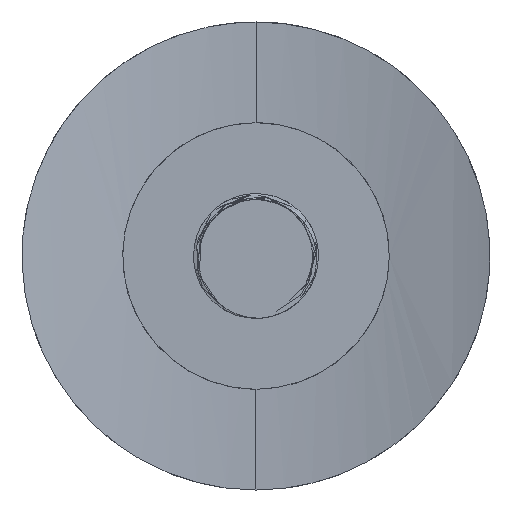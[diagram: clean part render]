
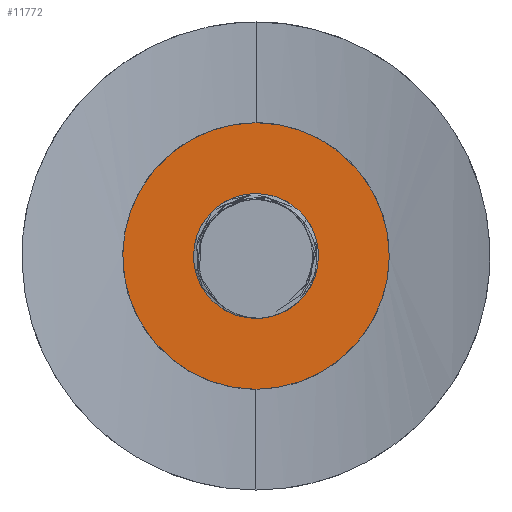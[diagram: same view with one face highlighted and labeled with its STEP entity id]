
A CAD part, left-side view. The second image highlights one B-rep face of the part: STEP entity #11772.
In plain terms, the highlighted planar face has unit normal (-1, 0, 0).
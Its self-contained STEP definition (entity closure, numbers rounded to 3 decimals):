
#145 = DIRECTION ( 'NONE',  ( 0., 0., 1. ) ) ;
#543 = PLANE ( 'NONE',  #8813 ) ;
#610 = CARTESIAN_POINT ( 'NONE',  ( -5.112, 0., 0. ) ) ;
#632 = EDGE_LOOP ( 'NONE', ( #7118, #7405 ) ) ;
#714 = VERTEX_POINT ( 'NONE', #8363 ) ;
#1255 = CARTESIAN_POINT ( 'NONE',  ( -5.112, 0., 0. ) ) ;
#1987 = AXIS2_PLACEMENT_3D ( 'NONE', #1255, #5929, #2329 ) ;
#2329 = DIRECTION ( 'NONE',  ( 0., 0., 1. ) ) ;
#2347 = CIRCLE ( 'NONE', #5713, 8.544 ) ;
#2359 = EDGE_LOOP ( 'NONE', ( #3351, #5665 ) ) ;
#2401 = CIRCLE ( 'NONE', #1987, 4. ) ;
#2527 = CARTESIAN_POINT ( 'NONE',  ( -5.112, 0., -8.544 ) ) ;
#3155 = CARTESIAN_POINT ( 'NONE',  ( -5.112, 8.544, 0. ) ) ;
#3351 = ORIENTED_EDGE ( 'NONE', *, *, #11755, .F. ) ;
#3826 = DIRECTION ( 'NONE',  ( -1., 0., 0. ) ) ;
#5439 = CIRCLE ( 'NONE', #9008, 8.544 ) ;
#5665 = ORIENTED_EDGE ( 'NONE', *, *, #7754, .F. ) ;
#5713 = AXIS2_PLACEMENT_3D ( 'NONE', #11571, #3826, #145 ) ;
#5929 = DIRECTION ( 'NONE',  ( -1., 0., 0. ) ) ;
#6036 = DIRECTION ( 'NONE',  ( -1., 0., 0. ) ) ;
#6633 = EDGE_CURVE ( 'NONE', #12084, #9933, #5439, .T. ) ;
#6713 = VERTEX_POINT ( 'NONE', #9845 ) ;
#7118 = ORIENTED_EDGE ( 'NONE', *, *, #6633, .T. ) ;
#7168 = DIRECTION ( 'NONE',  ( 0., 0., 1. ) ) ;
#7285 = DIRECTION ( 'NONE',  ( 0., 0., 1. ) ) ;
#7405 = ORIENTED_EDGE ( 'NONE', *, *, #8841, .T. ) ;
#7754 = EDGE_CURVE ( 'NONE', #6713, #714, #2401, .T. ) ;
#7921 = DIRECTION ( 'NONE',  ( 0., 0., -1. ) ) ;
#8363 = CARTESIAN_POINT ( 'NONE',  ( -5.112, 0., 4. ) ) ;
#8813 = AXIS2_PLACEMENT_3D ( 'NONE', #3155, #8906, #7921 ) ;
#8841 = EDGE_CURVE ( 'NONE', #9933, #12084, #2347, .T. ) ;
#8906 = DIRECTION ( 'NONE',  ( 1., 0., 0. ) ) ;
#9008 = AXIS2_PLACEMENT_3D ( 'NONE', #12049, #11109, #7285 ) ;
#9412 = AXIS2_PLACEMENT_3D ( 'NONE', #610, #6036, #7168 ) ;
#9845 = CARTESIAN_POINT ( 'NONE',  ( -5.112, 0., -4. ) ) ;
#9933 = VERTEX_POINT ( 'NONE', #2527 ) ;
#10025 = CIRCLE ( 'NONE', #9412, 4. ) ;
#10979 = FACE_OUTER_BOUND ( 'NONE', #632, .T. ) ;
#11041 = FACE_BOUND ( 'NONE', #2359, .T. ) ;
#11109 = DIRECTION ( 'NONE',  ( -1., 0., 0. ) ) ;
#11571 = CARTESIAN_POINT ( 'NONE',  ( -5.112, 0., 0. ) ) ;
#11755 = EDGE_CURVE ( 'NONE', #714, #6713, #10025, .T. ) ;
#11772 = ADVANCED_FACE ( 'NONE', ( #11041, #10979 ), #543, .F. ) ;
#12049 = CARTESIAN_POINT ( 'NONE',  ( -5.112, 0., 0. ) ) ;
#12080 = CARTESIAN_POINT ( 'NONE',  ( -5.112, 0., 8.544 ) ) ;
#12084 = VERTEX_POINT ( 'NONE', #12080 ) ;
